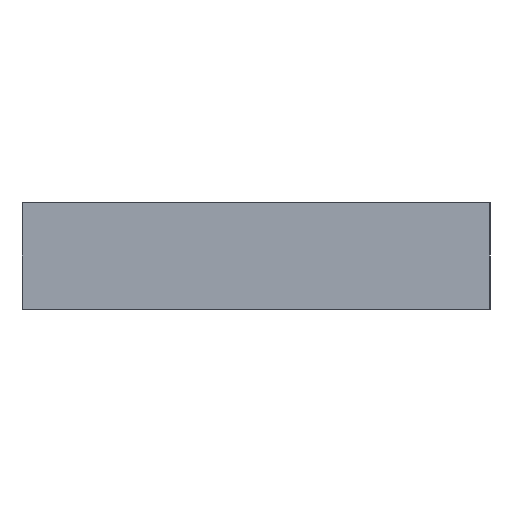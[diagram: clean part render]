
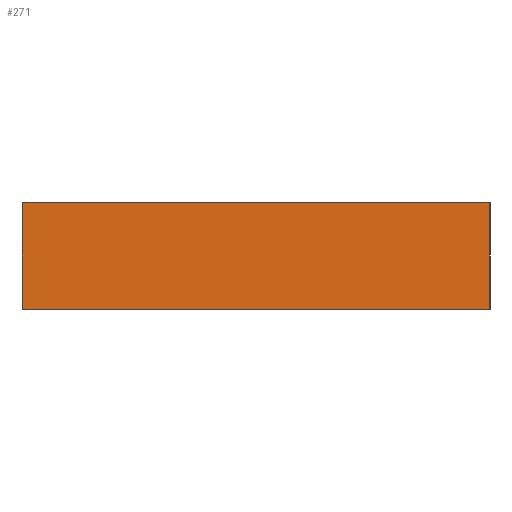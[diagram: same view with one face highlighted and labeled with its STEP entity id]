
A CAD part, left-side view. The second image highlights one B-rep face of the part: STEP entity #271.
In plain terms, the highlighted planar face has unit normal (-1, 0, 0).
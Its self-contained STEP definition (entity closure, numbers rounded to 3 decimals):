
#155 = VERTEX_POINT( '', #404 );
#161 = EDGE_CURVE( '', #155, #223, #410, .T. );
#175 = VERTEX_POINT( '', #425 );
#177 = EDGE_CURVE( '', #175, #313, #427, .T. );
#223 = VERTEX_POINT( '', #482 );
#271 = ADVANCED_FACE( '', ( #535 ), #536, .T. );
#277 = EDGE_CURVE( '', #223, #313, #542, .T. );
#313 = VERTEX_POINT( '', #582 );
#345 = EDGE_CURVE( '', #155, #175, #616, .T. );
#404 = CARTESIAN_POINT( '', ( -20., 0., 3.75 ) );
#410 = LINE( '', #683, #684 );
#425 = CARTESIAN_POINT( '', ( -20., -33., 3.75 ) );
#427 = LINE( '', #703, #704 );
#482 = CARTESIAN_POINT( '', ( -20., 0., -3.75 ) );
#535 = FACE_OUTER_BOUND( '', #837, .T. );
#536 = PLANE( '', #838 );
#542 = LINE( '', #846, #847 );
#582 = CARTESIAN_POINT( '', ( -20., -33., -3.75 ) );
#616 = LINE( '', #951, #952 );
#683 = CARTESIAN_POINT( '', ( -20., 0., 3.75 ) );
#684 = VECTOR( '', #1023, 1. );
#703 = CARTESIAN_POINT( '', ( -20., -33., 3.75 ) );
#704 = VECTOR( '', #1035, 1. );
#837 = EDGE_LOOP( '', ( #1182, #1183, #1184, #1185 ) );
#838 = AXIS2_PLACEMENT_3D( '', #1186, #1187, #1188 );
#846 = CARTESIAN_POINT( '', ( -20., 0., -3.75 ) );
#847 = VECTOR( '', #1192, 1. );
#951 = CARTESIAN_POINT( '', ( -20., 0., 3.75 ) );
#952 = VECTOR( '', #1276, 1. );
#1023 = DIRECTION( '', ( 0., 0., -1. ) );
#1035 = DIRECTION( '', ( 0., 0., -1. ) );
#1182 = ORIENTED_EDGE( '', *, *, #277, .T. );
#1183 = ORIENTED_EDGE( '', *, *, #177, .F. );
#1184 = ORIENTED_EDGE( '', *, *, #345, .F. );
#1185 = ORIENTED_EDGE( '', *, *, #161, .T. );
#1186 = CARTESIAN_POINT( '', ( -20., 0., 3.75 ) );
#1187 = DIRECTION( '', ( -1., 0., 0. ) );
#1188 = DIRECTION( '', ( 0., 1., 0. ) );
#1192 = DIRECTION( '', ( 0., -1., 0. ) );
#1276 = DIRECTION( '', ( 0., -1., 0. ) );
